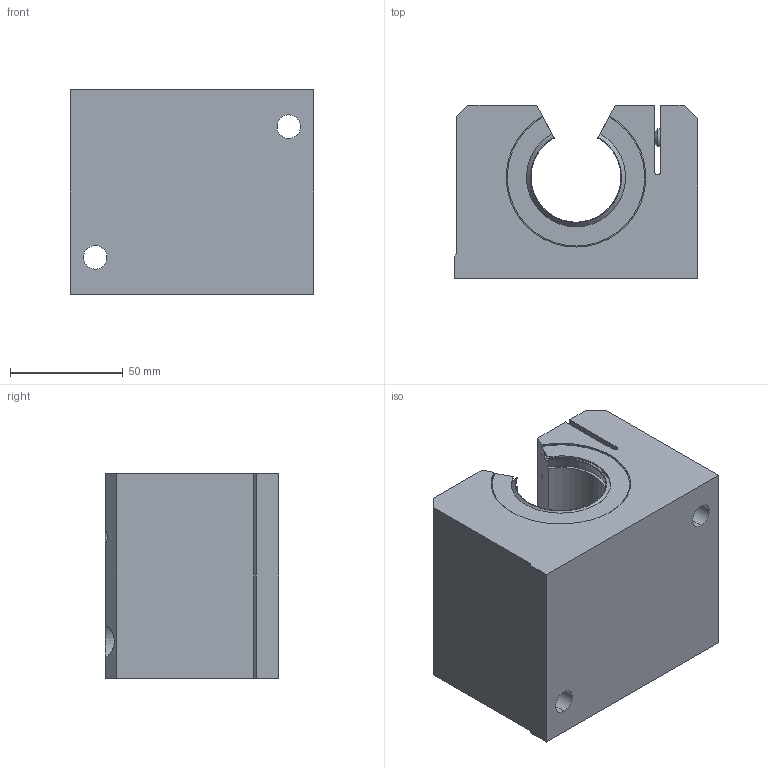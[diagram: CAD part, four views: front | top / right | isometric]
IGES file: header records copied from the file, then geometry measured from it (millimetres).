
Start section: 3D InterOp IGES (Version 21 0 1), Spatial Corp. Copyright (c) 1999-2007.
Global section: file name: SLS-40-OP.igs; native system: Spatial Corp.; preprocessor: 3D InterOp GENERIC/IGES 3.0; author: Noname; organization: Noname; date: 20220310.163625; units: millimetre
Bounding box: 108 x 77 x 91 mm (x, y, z)
Surface area: 73999.9 mm2 (no closed solid volume)
Topology: 0 solids, 0 shells, 144 faces, 786 edges, 780 vertices
Faces by surface type: revolution 97, extrusion 47
